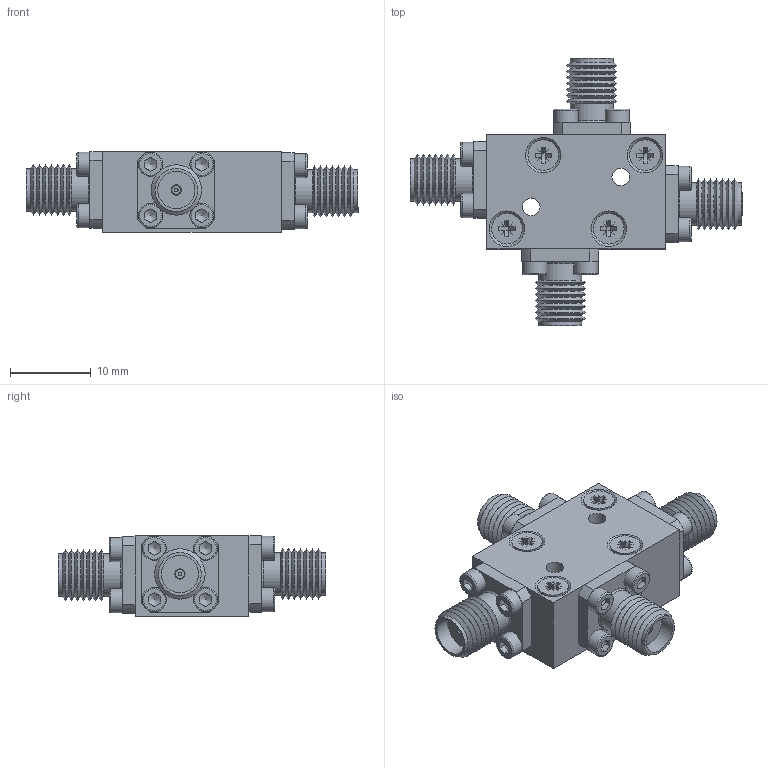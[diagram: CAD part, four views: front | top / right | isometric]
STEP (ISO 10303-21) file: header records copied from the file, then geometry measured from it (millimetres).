
FILE_DESCRIPTION(/* description */ ('Unknown'),/* implementation_level */ '2;1');
FILE_NAME(/* name */ 'DETI_MICROWAVE_HYBRID_COUPLER_011065_STEP',/* time_stamp */ '2021-06-10T09:36:09+02:00',/* author */ ('ALG'),/* organization */ ('DETI'),/* preprocessor_version */ 'ST-DEVELOPER v16.7',/* originating_system */ 'Solid Edge',/* authorisation */ 'Unknown');
FILE_SCHEMA (('AUTOMOTIVE_DESIGN {1 0 10303 214 3 1 1}'));
Length unit declared in the file: millimetre
Products named in the file (1): hybrid 902
Bounding box: 41.1 x 33.1 x 10 mm (x, y, z)
Volume: 4356.1 mm3; surface area: 3601.2 mm2
Topology: 1 solids, 41 shells, 566 faces, 1346 edges, 888 vertices
Faces by surface type: plane 338, cylinder 112, cone 92, torus 24
Full cylindrical faces by diameter (mm): 0.47 x4, 1.1 x4, 1.27 x8, 1.6 x16, 1.8 x16, 2 x4, 2.2 x8, 3 x16, 3.8 x4, 4.1 x4, 4.6 x4, 5.3 x8
Entity records: 18412 total; most frequent: CARTESIAN_POINT 2707, DIRECTION 2362, ORIENTED_EDGE 2036, EDGE_CURVE 1018, FACE_BOUND 888, AXIS2_PLACEMENT_3D 879, EDGE_LOOP 856, VERTEX_POINT 804
